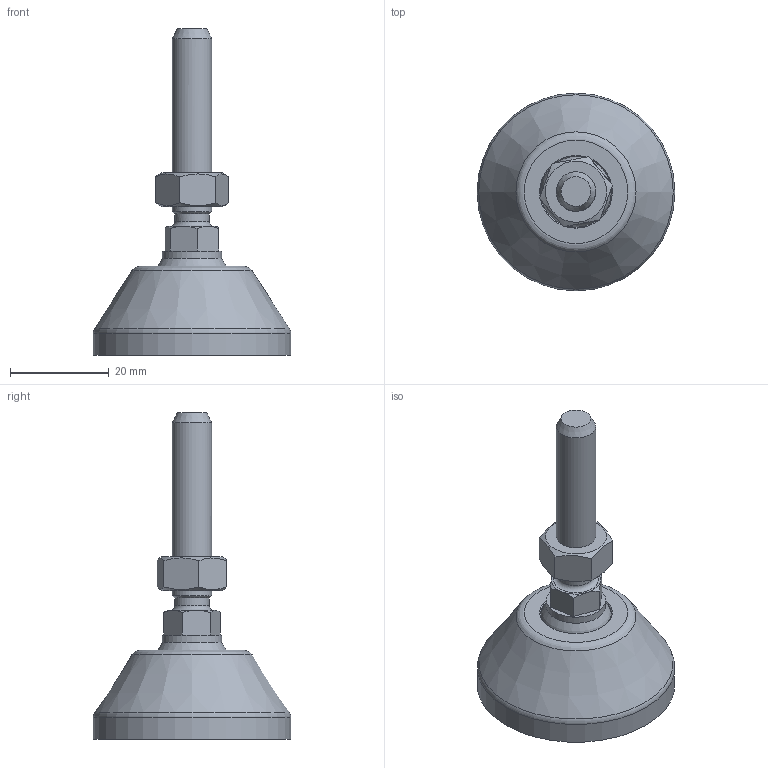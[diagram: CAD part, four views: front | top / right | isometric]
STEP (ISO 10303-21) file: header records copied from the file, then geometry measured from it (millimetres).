
FILE_DESCRIPTION(('STEP AP203'), '1');
FILE_NAME('栖闉罻', '', ('UNSPECIFIED'), ('UNSPECIFIED'), 'C3D Converter', 'C3D Toolkit', '');
FILE_SCHEMA(('CONFIG_CONTROL_DESIGN'));
Length unit declared in the file: millimetre
Products named in the file (4): A00015.1040; A00020.108040
Assembly tree (3 placements, depth 3):
  (unnamed)
    A00015.1040
    A00020.108040
      (unnamed)
Bounding box: 40 x 40 x 66.1 mm (x, y, z)
Volume: 14449.3 mm3; surface area: 8318.4 mm2
Topology: 2 solids, 2 shells, 140 faces, 401 edges, 271 vertices
Faces by surface type: plane 78, cylinder 26, torus 21, cone 13, sphere 2
Full cylindrical faces by diameter (mm): 7 x1, 8 x2, 12 x1, 14.3 x1, 15 x2, 15.5 x1, 32 x1, 40 x1
Entity records: 8263 total; most frequent: CARTESIAN_POINT 3371, ORIENTED_EDGE 752, DIRECTION 744, EDGE_CURVE 376, AXIS2_PLACEMENT_3D 299, VERTEX_POINT 270, EDGE_LOOP 170, FACE_BOUND 158
